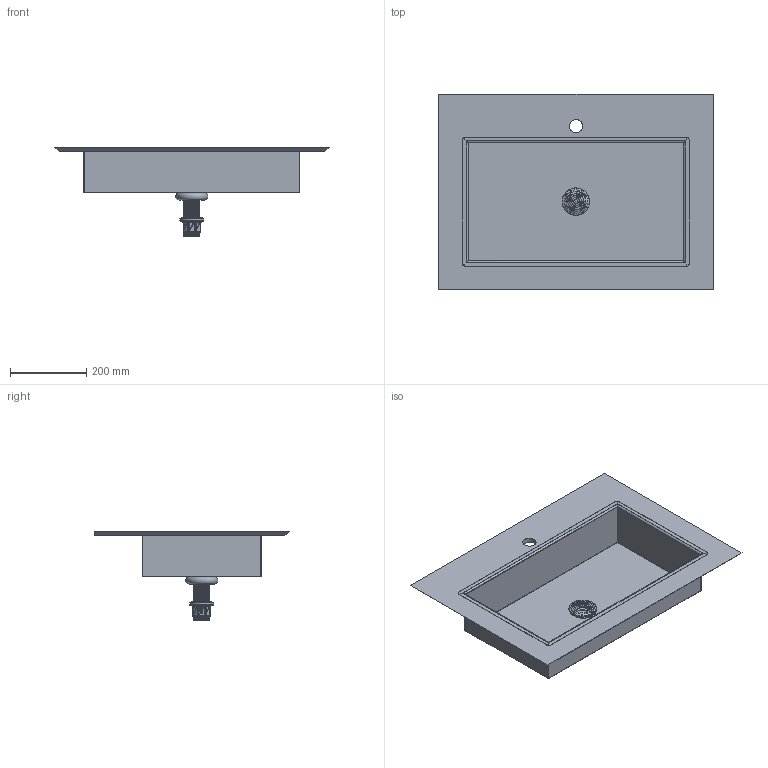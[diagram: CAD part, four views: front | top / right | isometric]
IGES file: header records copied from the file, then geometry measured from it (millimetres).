
Start section: Data from Parasolid IGES Translator 19.0.9, Copyright(c) 2006 Siemens PL M Software. All Rights Reserved.
Global section: file name: noorth-top-H 1,9 D 51,3 W 72_6558.igs; native system: By Siemens PLM Incorporated; preprocessor: XPlus GENERIC/IGES 19.0.9; author: Noname; organization: Noname; date: 20200603.104941; units: metre
Bounding box: 720 x 512 x 235.2 mm (x, y, z)
Volume: 2243392.1 mm3; surface area: 1259487.4 mm2
Topology: 2 solids, 2 shells, 11732 faces, 35117 edges, 35007 vertices
Faces by surface type: extrusion 11618, plane 60, cylinder 28, bspline 20, torus 4, cone 2
Full cylindrical faces by diameter (mm): 34.9 x1, 42 x1, 46 x1, 47.6 x1
